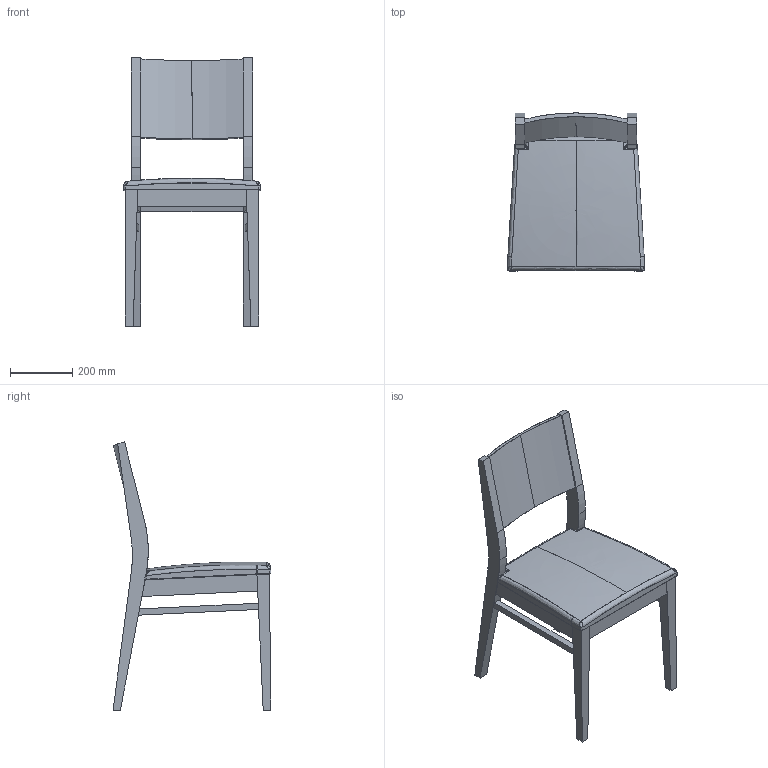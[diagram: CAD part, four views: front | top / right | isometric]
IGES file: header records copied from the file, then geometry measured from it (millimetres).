
Start section: SolidWorks IGES file using analytic representation for surfaces
Global section: file name: C:\Users\Adao\Documents\Trab Adao\Desenho técnico PRODUÇÃO\J M S\MARTY\MARTY (3D)\Cadeira MARTY M-438.IGS; native system: SolidWorks 2012; preprocessor: SolidWorks 2012; author: Adao; date: 121219.154115; units: millimetre
Bounding box: 439 x 508.55 x 863 mm (x, y, z)
Surface area: 1255187.8 mm2 (no closed solid volume)
Topology: 0 solids, 0 shells, 155 faces, 1114 edges, 1109 vertices
Faces by surface type: bspline 127, revolution 28
